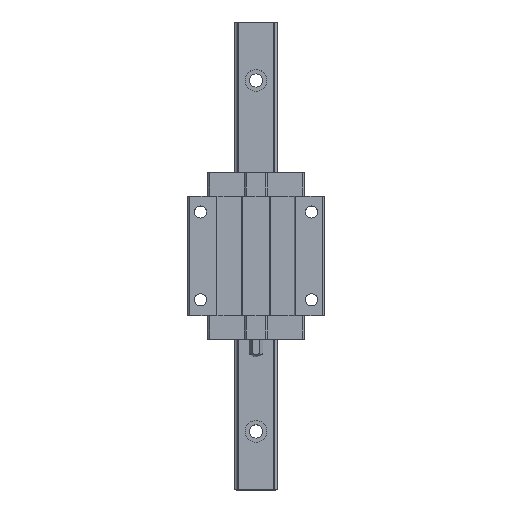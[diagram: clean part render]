
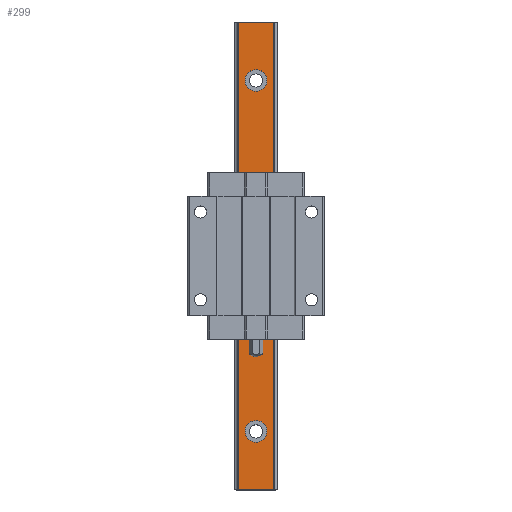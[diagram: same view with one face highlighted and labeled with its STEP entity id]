
A CAD part, top view. The second image highlights one B-rep face of the part: STEP entity #299.
In plain terms, the highlighted planar face has unit normal (0, 0, 1).
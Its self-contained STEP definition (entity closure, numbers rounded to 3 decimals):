
#299 = ADVANCED_FACE( '', ( #698, #699, #700, #701 ), #702, .T. );
#698 = FACE_BOUND( '', #1247, .T. );
#699 = FACE_BOUND( '', #1248, .T. );
#700 = FACE_BOUND( '', #1249, .T. );
#701 = FACE_OUTER_BOUND( '', #1250, .T. );
#702 = PLANE( '', #1251 );
#1247 = EDGE_LOOP( '', ( #1907 ) );
#1248 = EDGE_LOOP( '', ( #1908 ) );
#1249 = EDGE_LOOP( '', ( #1909 ) );
#1250 = EDGE_LOOP( '', ( #1910, #1911, #1912, #1913 ) );
#1251 = AXIS2_PLACEMENT_3D( '', #1914, #1915, #1916 );
#1907 = ORIENTED_EDGE( '', *, *, #3334, .T. );
#1908 = ORIENTED_EDGE( '', *, *, #3335, .T. );
#1909 = ORIENTED_EDGE( '', *, *, #3213, .T. );
#1910 = ORIENTED_EDGE( '', *, *, #3336, .F. );
#1911 = ORIENTED_EDGE( '', *, *, #3332, .F. );
#1912 = ORIENTED_EDGE( '', *, *, #3337, .T. );
#1913 = ORIENTED_EDGE( '', *, *, #3338, .T. );
#1914 = CARTESIAN_POINT( '', ( -6.004, -80., 13. ) );
#1915 = DIRECTION( '', ( 0., 0., 1. ) );
#1916 = DIRECTION( '', ( 1., 0., 0. ) );
#3213 = EDGE_CURVE( '', #3804, #3804, #3805, .T. );
#3332 = EDGE_CURVE( '', #4012, #4008, #4014, .T. );
#3334 = EDGE_CURVE( '', #4016, #4016, #4017, .T. );
#3335 = EDGE_CURVE( '', #4018, #4018, #4019, .T. );
#3336 = EDGE_CURVE( '', #4008, #4020, #4021, .T. );
#3337 = EDGE_CURVE( '', #4012, #4022, #4023, .T. );
#3338 = EDGE_CURVE( '', #4022, #4020, #4024, .T. );
#3804 = VERTEX_POINT( '', #4688 );
#3805 = CIRCLE( '', #4689, 3.75 );
#4008 = VERTEX_POINT( '', #4960 );
#4012 = VERTEX_POINT( '', #4965 );
#4014 = LINE( '', #4967, #4968 );
#4016 = VERTEX_POINT( '', #4970 );
#4017 = CIRCLE( '', #4971, 3.75 );
#4018 = VERTEX_POINT( '', #4972 );
#4019 = CIRCLE( '', #4973, 3.75 );
#4020 = VERTEX_POINT( '', #4974 );
#4021 = LINE( '', #4975, #4976 );
#4022 = VERTEX_POINT( '', #4977 );
#4023 = LINE( '', #4978, #4979 );
#4024 = LINE( '', #4980, #4981 );
#4688 = CARTESIAN_POINT( '', ( 0., 56.25, 13. ) );
#4689 = AXIS2_PLACEMENT_3D( '', #5936, #5937, #5938 );
#4960 = CARTESIAN_POINT( '', ( -6.004, 80., 13. ) );
#4965 = CARTESIAN_POINT( '', ( -6.004, -80., 13. ) );
#4967 = CARTESIAN_POINT( '', ( -6.004, -80., 13. ) );
#4968 = VECTOR( '', #6083, 1000. );
#4970 = CARTESIAN_POINT( '', ( 0., -63.75, 13. ) );
#4971 = AXIS2_PLACEMENT_3D( '', #6084, #6085, #6086 );
#4972 = CARTESIAN_POINT( '', ( 0., -3.75, 13. ) );
#4973 = AXIS2_PLACEMENT_3D( '', #6087, #6088, #6089 );
#4974 = CARTESIAN_POINT( '', ( 6.004, 80., 13. ) );
#4975 = CARTESIAN_POINT( '', ( -6.004, 80., 13. ) );
#4976 = VECTOR( '', #6090, 1000. );
#4977 = CARTESIAN_POINT( '', ( 6.004, -80., 13. ) );
#4978 = CARTESIAN_POINT( '', ( -6.004, -80., 13. ) );
#4979 = VECTOR( '', #6091, 1000. );
#4980 = CARTESIAN_POINT( '', ( 6.004, -80., 13. ) );
#4981 = VECTOR( '', #6092, 1000. );
#5936 = CARTESIAN_POINT( '', ( 0., 60., 13. ) );
#5937 = DIRECTION( '', ( 0., 0., -1. ) );
#5938 = DIRECTION( '', ( 0., -1., 0. ) );
#6083 = DIRECTION( '', ( 0., 1., 0. ) );
#6084 = CARTESIAN_POINT( '', ( 0., -60., 13. ) );
#6085 = DIRECTION( '', ( 0., 0., -1. ) );
#6086 = DIRECTION( '', ( 0., -1., 0. ) );
#6087 = CARTESIAN_POINT( '', ( 0., 0., 13. ) );
#6088 = DIRECTION( '', ( 0., 0., -1. ) );
#6089 = DIRECTION( '', ( 0., -1., 0. ) );
#6090 = DIRECTION( '', ( 1., 0., 0. ) );
#6091 = DIRECTION( '', ( 1., 0., 0. ) );
#6092 = DIRECTION( '', ( 0., 1., 0. ) );
